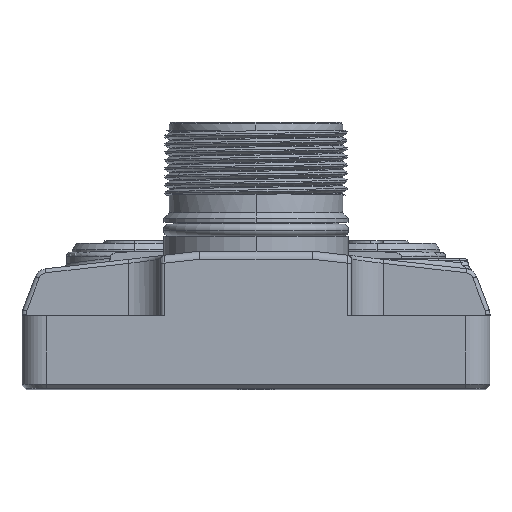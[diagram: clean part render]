
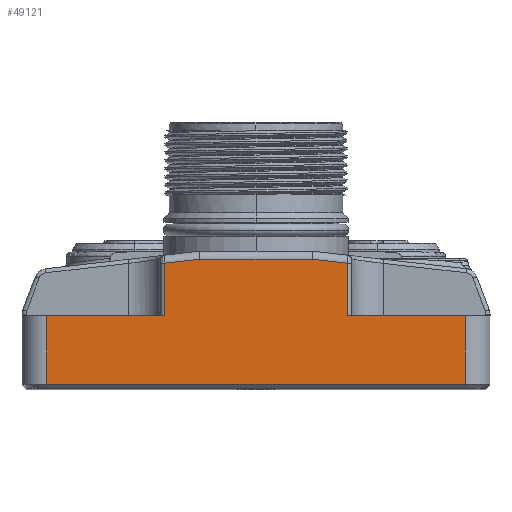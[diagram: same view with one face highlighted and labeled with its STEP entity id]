
A CAD part, top view. The second image highlights one B-rep face of the part: STEP entity #49121.
In plain terms, the highlighted planar face has unit normal (0, 0, 1).
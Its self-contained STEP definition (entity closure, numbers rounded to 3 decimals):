
#6783=DIRECTION('',(1.,0.,0.));
#6784=VECTOR('',#6783,14.7);
#6785=CARTESIAN_POINT('',(-26.,9.,153.));
#6786=LINE('',#6785,#6784);
#6806=DIRECTION('',(0.,1.,0.));
#6807=VECTOR('',#6806,8.5);
#6808=CARTESIAN_POINT('',(-26.,0.5,
153.));
#6809=LINE('',#6808,#6807);
#6814=DIRECTION('',(-0.994,0.113,0.));
#6815=VECTOR('',#6814,4.385);
#6816=CARTESIAN_POINT('',(11.3,15.505,153.));
#6817=LINE('',#6816,#6815);
#6818=DIRECTION('',(1.,0.,0.));
#6819=VECTOR('',#6818,52.);
#6820=CARTESIAN_POINT('',(-26.,0.5,
153.));
#6821=LINE('',#6820,#6819);
#6822=DIRECTION('',(-0.994,-0.113,0.));
#6823=VECTOR('',#6822,4.385);
#6824=CARTESIAN_POINT('',(-6.943,16.,153.));
#6825=LINE('',#6824,#6823);
#6830=DIRECTION('',(1.,0.,0.));
#6831=VECTOR('',#6830,13.887);
#6832=CARTESIAN_POINT('',(-6.943,16.,153.));
#6833=LINE('',#6832,#6831);
#6841=CARTESIAN_POINT('',(-6.943,16.,153.));
#7420=DIRECTION('',(0.,-1.,0.));
#7421=VECTOR('',#7420,8.5);
#7422=CARTESIAN_POINT('',(26.,9.,153.));
#7423=LINE('',#7422,#7421);
#7438=DIRECTION('',(1.,0.,0.));
#7439=VECTOR('',#7438,14.7);
#7440=CARTESIAN_POINT('',(11.3,9.,153.));
#7441=LINE('',#7440,#7439);
#7549=CARTESIAN_POINT('',(6.943,16.,153.));
#7559=DIRECTION('',(0.,-1.,0.));
#7560=VECTOR('',#7559,6.505);
#7561=CARTESIAN_POINT('',(11.3,15.505,153.));
#7562=LINE('',#7561,#7560);
#8989=CARTESIAN_POINT('',(-11.3,15.505,153.));
#9008=DIRECTION('',(0.,1.,0.));
#9009=VECTOR('',#9008,6.505);
#9010=CARTESIAN_POINT('',(-11.3,9.,153.));
#9011=LINE('',#9010,#9009);
#34892=VERTEX_POINT('',#8989);
#36824=VERTEX_POINT('',#6841);
#36837=CARTESIAN_POINT('',(-26.,0.5,
153.));
#36838=CARTESIAN_POINT('',(-26.,9.,153.));
#36839=VERTEX_POINT('',#36837);
#36840=VERTEX_POINT('',#36838);
#37147=CARTESIAN_POINT('',(-11.3,9.,153.));
#37148=VERTEX_POINT('',#37147);
#37953=CARTESIAN_POINT('',(26.,9.,153.));
#37955=VERTEX_POINT('',#37953);
#39239=VERTEX_POINT('',#7549);
#39603=CARTESIAN_POINT('',(11.3,9.,153.));
#39604=VERTEX_POINT('',#39603);
#40409=CARTESIAN_POINT('',(11.3,15.505,153.));
#40410=VERTEX_POINT('',#40409);
#40636=CARTESIAN_POINT('',(26.,0.5,153.));
#40637=VERTEX_POINT('',#40636);
#49096=CARTESIAN_POINT('',(-26.,0.5,153.));
#49097=DIRECTION('',(0.,0.,1.));
#49098=DIRECTION('',(1.,0.,0.));
#49099=AXIS2_PLACEMENT_3D('',#49096,#49097,#49098);
#49100=PLANE('',#49099);
#49102=ORIENTED_EDGE('',*,*,#49101,.T.);
#49104=ORIENTED_EDGE('',*,*,#49103,.F.);
#49106=ORIENTED_EDGE('',*,*,#49105,.T.);
#49108=ORIENTED_EDGE('',*,*,#49107,.T.);
#49110=ORIENTED_EDGE('',*,*,#49109,.T.);
#49112=ORIENTED_EDGE('',*,*,#49111,.F.);
#49113=ORIENTED_EDGE('',*,*,#49088,.T.);
#49114=ORIENTED_EDGE('',*,*,#49047,.T.);
#49116=ORIENTED_EDGE('',*,*,#49115,.T.);
#49118=ORIENTED_EDGE('',*,*,#49117,.F.);
#49119=EDGE_LOOP('',(#49102,#49104,#49106,#49108,#49110,#49112,#49113,#49114,
#49116,#49118));
#49120=FACE_OUTER_BOUND('',#49119,.F.);
#49121=ADVANCED_FACE('',(#49120),#49100,.T.);
#49047=EDGE_CURVE('',#36840,#37148,#6786,.T.);
#49088=EDGE_CURVE('',#36839,#36840,#6809,.T.);
#49101=EDGE_CURVE('',#36824,#39239,#6833,.T.);
#49103=EDGE_CURVE('',#40410,#39239,#6817,.T.);
#49105=EDGE_CURVE('',#40410,#39604,#7562,.T.);
#49107=EDGE_CURVE('',#39604,#37955,#7441,.T.);
#49109=EDGE_CURVE('',#37955,#40637,#7423,.T.);
#49111=EDGE_CURVE('',#36839,#40637,#6821,.T.);
#49115=EDGE_CURVE('',#37148,#34892,#9011,.T.);
#49117=EDGE_CURVE('',#36824,#34892,#6825,.T.);
